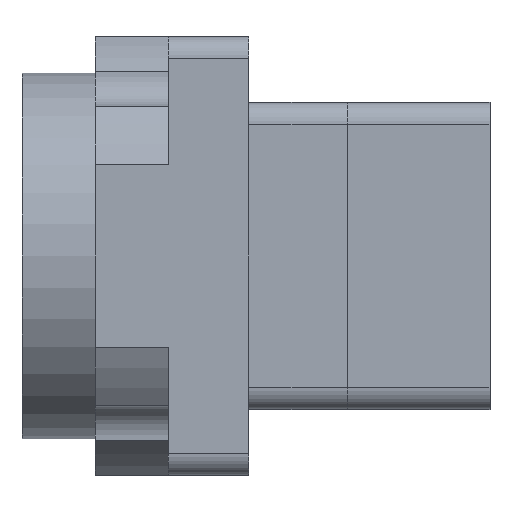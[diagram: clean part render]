
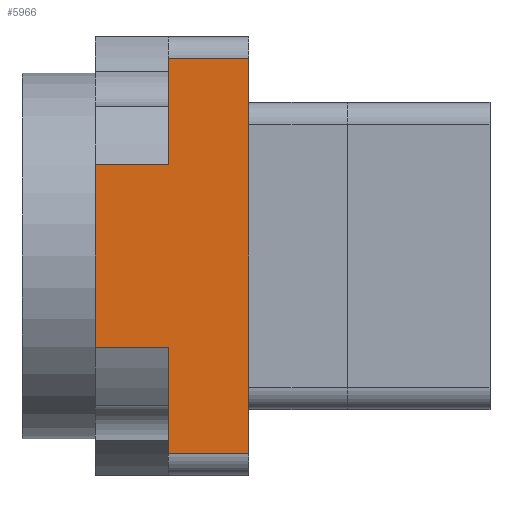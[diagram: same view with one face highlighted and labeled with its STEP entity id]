
A CAD part, left-side view. The second image highlights one B-rep face of the part: STEP entity #5966.
In plain terms, the highlighted planar face has unit normal (-1, 0, 0).
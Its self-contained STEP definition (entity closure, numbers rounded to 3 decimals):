
#73 = VERTEX_POINT ( 'NONE', #9664 ) ;
#167 = VERTEX_POINT ( 'NONE', #9938 ) ;
#176 = LINE ( 'NONE', #7890, #3873 ) ;
#182 = VERTEX_POINT ( 'NONE', #8147 ) ;
#243 = ORIENTED_EDGE ( 'NONE', *, *, #8421, .F. ) ;
#456 = ORIENTED_EDGE ( 'NONE', *, *, #10139, .F. ) ;
#487 = DIRECTION ( 'NONE',  ( 0., -1., 0. ) ) ;
#537 = CARTESIAN_POINT ( 'NONE',  ( -30., 11., 27. ) ) ;
#1031 = CARTESIAN_POINT ( 'NONE',  ( -30., 0., -27. ) ) ;
#1116 = PLANE ( 'NONE',  #8046 ) ;
#2418 = EDGE_CURVE ( 'NONE', #10524, #73, #6826, .T. ) ;
#2436 = EDGE_CURVE ( 'NONE', #7998, #7586, #5269, .T. ) ;
#2583 = CARTESIAN_POINT ( 'NONE',  ( -30., 11., -27. ) ) ;
#2658 = LINE ( 'NONE', #1031, #9315 ) ;
#2940 = DIRECTION ( 'NONE',  ( 0., 0., 1. ) ) ;
#3030 = CARTESIAN_POINT ( 'NONE',  ( -30., 11., -27. ) ) ;
#3086 = EDGE_CURVE ( 'NONE', #7586, #167, #5021, .T. ) ;
#3415 = CARTESIAN_POINT ( 'NONE',  ( -30., 11., 12.5 ) ) ;
#3594 = DIRECTION ( 'NONE',  ( 0., 0., 1. ) ) ;
#3873 = VECTOR ( 'NONE', #3594, 1000. ) ;
#4250 = LINE ( 'NONE', #9992, #9327 ) ;
#4323 = DIRECTION ( 'NONE',  ( 0., -1., 0. ) ) ;
#4538 = CARTESIAN_POINT ( 'NONE',  ( -30., 11., -27. ) ) ;
#4648 = DIRECTION ( 'NONE',  ( 0., 0., -1. ) ) ;
#4735 = CARTESIAN_POINT ( 'NONE',  ( -30., 21., -12.5 ) ) ;
#4897 = CARTESIAN_POINT ( 'NONE',  ( -30., 11., -12.5 ) ) ;
#4942 = ORIENTED_EDGE ( 'NONE', *, *, #2436, .F. ) ;
#5021 = LINE ( 'NONE', #537, #5681 ) ;
#5269 = LINE ( 'NONE', #7217, #7813 ) ;
#5372 = FACE_OUTER_BOUND ( 'NONE', #5812, .T. ) ;
#5407 = LINE ( 'NONE', #4735, #5613 ) ;
#5432 = EDGE_CURVE ( 'NONE', #10524, #6452, #176, .T. ) ;
#5543 = DIRECTION ( 'NONE',  ( 0., 0., 1. ) ) ;
#5569 = VECTOR ( 'NONE', #9639, 1000. ) ;
#5613 = VECTOR ( 'NONE', #2940, 1000. ) ;
#5681 = VECTOR ( 'NONE', #487, 1000. ) ;
#5812 = EDGE_LOOP ( 'NONE', ( #10774, #9833, #4942, #243, #456, #9577, #8508, #8855 ) ) ;
#5966 = ADVANCED_FACE ( 'NONE', ( #5372 ), #1116, .F. ) ;
#6168 = EDGE_CURVE ( 'NONE', #73, #167, #2658, .T. ) ;
#6188 = EDGE_CURVE ( 'NONE', #182, #6452, #7963, .T. ) ;
#6452 = VERTEX_POINT ( 'NONE', #4897 ) ;
#6826 = LINE ( 'NONE', #2583, #10352 ) ;
#7217 = CARTESIAN_POINT ( 'NONE',  ( -30., 11., -27. ) ) ;
#7586 = VERTEX_POINT ( 'NONE', #10494 ) ;
#7813 = VECTOR ( 'NONE', #5543, 1000. ) ;
#7890 = CARTESIAN_POINT ( 'NONE',  ( -30., 11., -27. ) ) ;
#7963 = LINE ( 'NONE', #9477, #5569 ) ;
#7998 = VERTEX_POINT ( 'NONE', #3415 ) ;
#8046 = AXIS2_PLACEMENT_3D ( 'NONE', #4538, #8097, #4648 ) ;
#8097 = DIRECTION ( 'NONE',  ( 1., 0., 0. ) ) ;
#8147 = CARTESIAN_POINT ( 'NONE',  ( -30., 21., -12.5 ) ) ;
#8421 = EDGE_CURVE ( 'NONE', #9010, #7998, #4250, .T. ) ;
#8508 = ORIENTED_EDGE ( 'NONE', *, *, #5432, .F. ) ;
#8806 = DIRECTION ( 'NONE',  ( 0., 0., 1. ) ) ;
#8855 = ORIENTED_EDGE ( 'NONE', *, *, #2418, .T. ) ;
#9010 = VERTEX_POINT ( 'NONE', #9642 ) ;
#9315 = VECTOR ( 'NONE', #8806, 1000. ) ;
#9327 = VECTOR ( 'NONE', #9944, 1000. ) ;
#9477 = CARTESIAN_POINT ( 'NONE',  ( -30., 21., -12.5 ) ) ;
#9577 = ORIENTED_EDGE ( 'NONE', *, *, #6188, .T. ) ;
#9639 = DIRECTION ( 'NONE',  ( 0., -1., 0. ) ) ;
#9642 = CARTESIAN_POINT ( 'NONE',  ( -30., 21., 12.5 ) ) ;
#9664 = CARTESIAN_POINT ( 'NONE',  ( -30., 0., -27. ) ) ;
#9833 = ORIENTED_EDGE ( 'NONE', *, *, #3086, .F. ) ;
#9938 = CARTESIAN_POINT ( 'NONE',  ( -30., 0., 27. ) ) ;
#9944 = DIRECTION ( 'NONE',  ( 0., -1., 0. ) ) ;
#9992 = CARTESIAN_POINT ( 'NONE',  ( -30., 21., 12.5 ) ) ;
#10139 = EDGE_CURVE ( 'NONE', #182, #9010, #5407, .T. ) ;
#10352 = VECTOR ( 'NONE', #4323, 1000. ) ;
#10494 = CARTESIAN_POINT ( 'NONE',  ( -30., 11., 27. ) ) ;
#10524 = VERTEX_POINT ( 'NONE', #3030 ) ;
#10774 = ORIENTED_EDGE ( 'NONE', *, *, #6168, .T. ) ;
